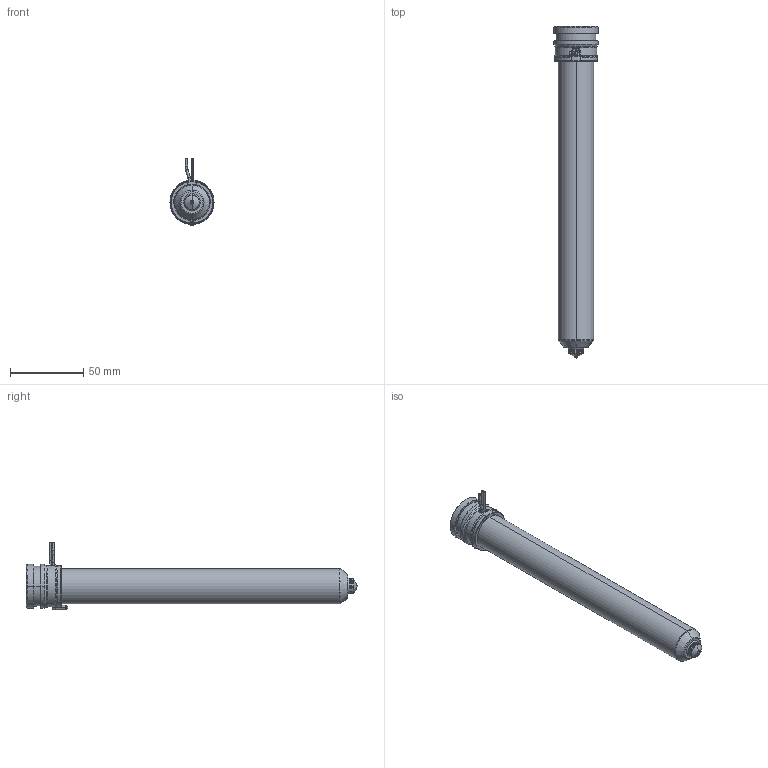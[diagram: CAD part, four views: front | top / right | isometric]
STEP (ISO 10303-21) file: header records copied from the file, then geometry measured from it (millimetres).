
FILE_DESCRIPTION((''),'2;1');
FILE_NAME('MPN-10-29-TS10-206-A','2026-02-05T12:34:13',('UPTIO'),('Thermoplay S.p.A.'),'CREO PARAMETRIC BY PTC INC, 2023494','CREO PARAMETRIC BY PTC INC, 2023494','');
FILE_SCHEMA(('CONFIG_CONTROL_DESIGN','SHAPE_APPEARANCE_LAYERS_GROUPS'));
Length unit declared in the file: millimetre
Products named in the file (1): MPN-10-29-TS10-206-A
Bounding box: 30 x 226 x 46 mm (x, y, z)
Volume: 69911.1 mm3; surface area: 70928.8 mm2
Topology: 2 solids, 3 shells, 552 faces, 1455 edges, 898 vertices
Faces by surface type: cylinder 180, plane 145, bspline 78, torus 68, cone 66, sphere 11, extrusion 4
Entity records: 31187 total; most frequent: CARTESIAN_POINT 14808, ORIENTED_EDGE 2894, DIRECTION 2651, EDGE_CURVE 1447, AXIS2_PLACEMENT_3D 1051, VERTEX_POINT 898, EDGE_LOOP 581, CIRCLE 580
